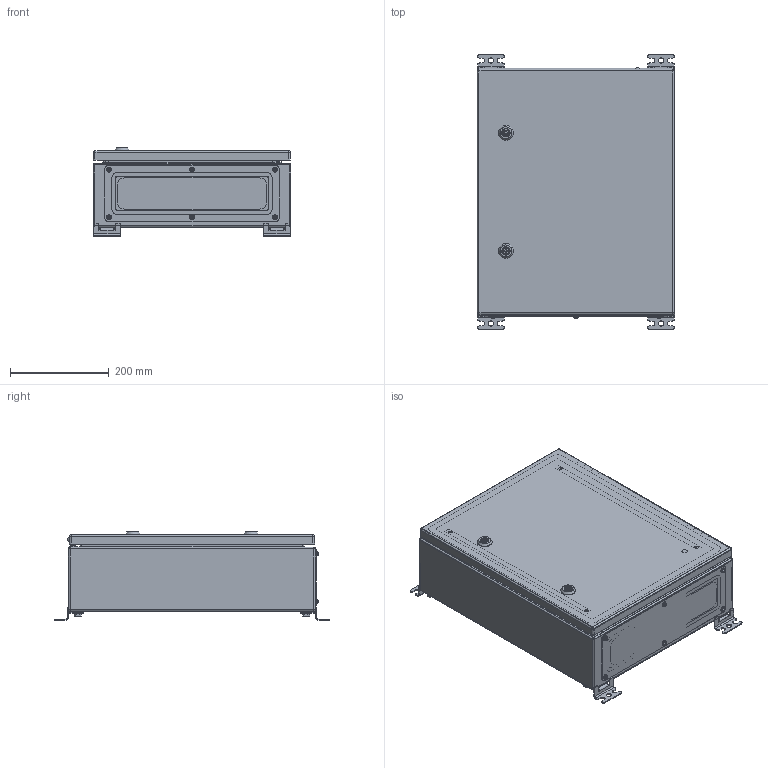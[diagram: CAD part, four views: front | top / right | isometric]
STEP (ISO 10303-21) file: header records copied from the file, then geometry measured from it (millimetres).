
FILE_DESCRIPTION(('STEP AP242'), '1');
FILE_NAME('400 ﾙﾌﾏ-1 (IP-56)', '', ('UNSPECIFIED'), ('UNSPECIFIED'), 'C3D Converter', 'C3D Toolkit', '');
FILE_SCHEMA(('AP242_MANAGED_MODEL_BASED_3D_ENGINEERING_MIM_LF { 1 0 10303 442 1 1 4 }'));
Length unit declared in the file: millimetre
Products named in the file (51): ЩМП-1-ЛФ СБ; 410-ЛФ; 420; 421; 411-Ф; 430-Л; 431-Л; 490; 491; 401.01; 440-Ф; 441-Ф; 402; 403; 450; 451; ЦИУЛ.210677.00.03-03; 452
Assembly tree (126 placements, depth 4):
  ЩМП-1-ЛФ СБ
    410-ЛФ
      420
        421
        (unnamed)  x4
        (unnamed)
      411-Ф
      430-Л
        431-Л
        (unnamed)  x6
    490  x2
      491
      (unnamed)
      (unnamed)
      (unnamed)
      (unnamed)
      (unnamed)
    490  x2
      491
      (unnamed)
      (unnamed)
      (unnamed)
      (unnamed)
      (unnamed)
    401.01
    (unnamed)  x4
    (unnamed)  x4
    (unnamed)  x4
    (unnamed)  x4
    (unnamed)  x2
      (unnamed)
      (unnamed)
      (unnamed)
    (unnamed)  x10
    440-Ф
      441-Ф
      (unnamed)
      (unnamed)  x4
      (unnamed)  x2
    402  x2
    (unnamed)  x4
    (unnamed)  x4
    (unnamed)  x2
      (unnamed)
      (unnamed)
      (unnamed)
      (unnamed)
      (unnamed)
    (unnamed)  x2
    403
    (unnamed)  x6
    (unnamed)  x6
    450
      451
      (unnamed)  x3
      (unnamed)  x2
      (unnamed)  x2
      (unnamed)  x3
      ЦИУЛ.210677.00.03-03
      452
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Bounding box: 400 x 556 x 178.1 mm (x, y, z)
Volume: 1766741 mm3; surface area: 2079740.7 mm2
Topology: 137 solids, 137 shells, 2719 faces, 6486 edges, 4122 vertices
Faces by surface type: plane 1545, cylinder 755, cone 263, extrusion 54, sphere 37, torus 33, bspline 32
Full cylindrical faces by diameter (mm): 0.5 x4, 2.6 x8, 3.3 x1, 3.5 x60, 4 x1, 4.134 x9, 4.2 x5, 4.917 x4, 5 x15, 5.3 x2, 5.5 x17, 5.75 x3, 5.8 x2, 6 x24, 6.38 x6, 6.4 x10, 6.647 x8, 7 x6, 7.3 x4, 7.4 x1, 7.5 x6, 7.74 x6, 8 x14, 8.376 x4, 8.4 x8, 8.5 x25, 8.7 x6, 9 x12, 10 x16, 10.4 x2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
Entity records: 71685 total; most frequent: CARTESIAN_POINT 36511, DIRECTION 5762, ORIENTED_EDGE 5496, EDGE_CURVE 2748, AXIS2_PLACEMENT_3D 2114, VERTEX_POINT 1854, EDGE_LOOP 1594, VECTOR 1534
